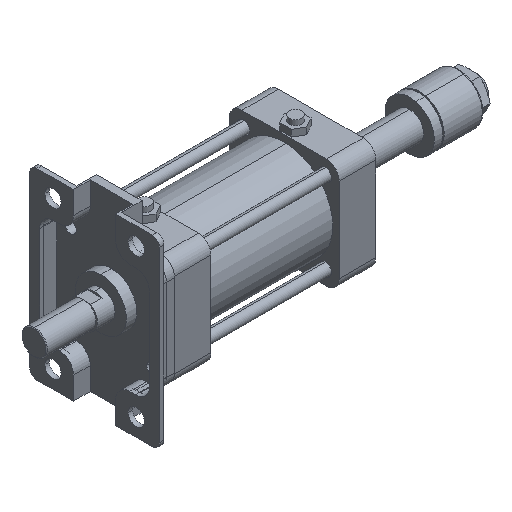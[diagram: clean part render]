
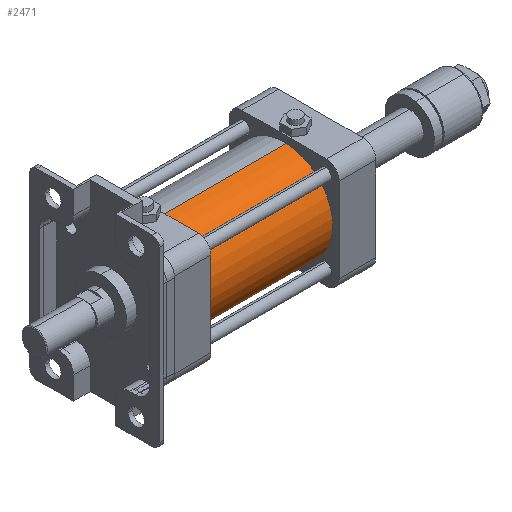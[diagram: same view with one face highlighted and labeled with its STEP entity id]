
A CAD part, isometric view. The second image highlights one B-rep face of the part: STEP entity #2471.
In plain terms, the highlighted cylindrical face has radius 34.5 mm (diameter 69 mm), a partial arc.
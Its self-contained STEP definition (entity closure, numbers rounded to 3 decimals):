
#138 = VERTEX_POINT ( 'NONE', #5153 ) ;
#401 = VECTOR ( 'NONE', #6404, 1000. ) ;
#547 = CARTESIAN_POINT ( 'NONE',  ( -45.5, 0., 34.5 ) ) ;
#1375 = CYLINDRICAL_SURFACE ( 'NONE', #1600, 34.5 ) ;
#1560 = CARTESIAN_POINT ( 'NONE',  ( -29.1, 0., -34.5 ) ) ;
#1600 = AXIS2_PLACEMENT_3D ( 'NONE', #3328, #5426, #11742 ) ;
#2370 = EDGE_CURVE ( 'NONE', #138, #9061, #4634, .T. ) ;
#2471 = ADVANCED_FACE ( 'NONE', ( #7225 ), #1375, .T. ) ;
#2530 = CARTESIAN_POINT ( 'NONE',  ( -29.1, 0., 34.5 ) ) ;
#2575 = CARTESIAN_POINT ( 'NONE',  ( 45.5, 0., 0. ) ) ;
#3328 = CARTESIAN_POINT ( 'NONE',  ( -29.1, 0., 0. ) ) ;
#3742 = DIRECTION ( 'NONE',  ( -1., 0., 0. ) ) ;
#4482 = DIRECTION ( 'NONE',  ( 0., 0., 1. ) ) ;
#4634 = LINE ( 'NONE', #2530, #401 ) ;
#4639 = LINE ( 'NONE', #1560, #7843 ) ;
#4941 = ORIENTED_EDGE ( 'NONE', *, *, #5583, .F. ) ;
#5153 = CARTESIAN_POINT ( 'NONE',  ( 45.5, 0., 34.5 ) ) ;
#5384 = CIRCLE ( 'NONE', #9954, 34.5 ) ;
#5426 = DIRECTION ( 'NONE',  ( -1., 0., 0. ) ) ;
#5583 = EDGE_CURVE ( 'NONE', #9610, #9061, #6607, .T. ) ;
#5626 = VERTEX_POINT ( 'NONE', #6487 ) ;
#6288 = EDGE_LOOP ( 'NONE', ( #8470, #10281, #8943, #4941 ) ) ;
#6404 = DIRECTION ( 'NONE',  ( -1., 0., 0. ) ) ;
#6452 = DIRECTION ( 'NONE',  ( -1., 0., 0. ) ) ;
#6487 = CARTESIAN_POINT ( 'NONE',  ( 45.5, 0., -34.5 ) ) ;
#6607 = CIRCLE ( 'NONE', #7002, 34.5 ) ;
#7002 = AXIS2_PLACEMENT_3D ( 'NONE', #7250, #6452, #4482 ) ;
#7225 = FACE_OUTER_BOUND ( 'NONE', #6288, .T. ) ;
#7250 = CARTESIAN_POINT ( 'NONE',  ( -45.5, 0., 0. ) ) ;
#7843 = VECTOR ( 'NONE', #8769, 1000. ) ;
#8470 = ORIENTED_EDGE ( 'NONE', *, *, #11329, .F. ) ;
#8769 = DIRECTION ( 'NONE',  ( -1., 0., 0. ) ) ;
#8943 = ORIENTED_EDGE ( 'NONE', *, *, #2370, .T. ) ;
#9061 = VERTEX_POINT ( 'NONE', #547 ) ;
#9610 = VERTEX_POINT ( 'NONE', #11827 ) ;
#9728 = EDGE_CURVE ( 'NONE', #5626, #138, #5384, .T. ) ;
#9954 = AXIS2_PLACEMENT_3D ( 'NONE', #2575, #3742, #10997 ) ;
#10281 = ORIENTED_EDGE ( 'NONE', *, *, #9728, .T. ) ;
#10997 = DIRECTION ( 'NONE',  ( 0., 0., 1. ) ) ;
#11329 = EDGE_CURVE ( 'NONE', #5626, #9610, #4639, .T. ) ;
#11742 = DIRECTION ( 'NONE',  ( 0., 0., 1. ) ) ;
#11827 = CARTESIAN_POINT ( 'NONE',  ( -45.5, 0., -34.5 ) ) ;
